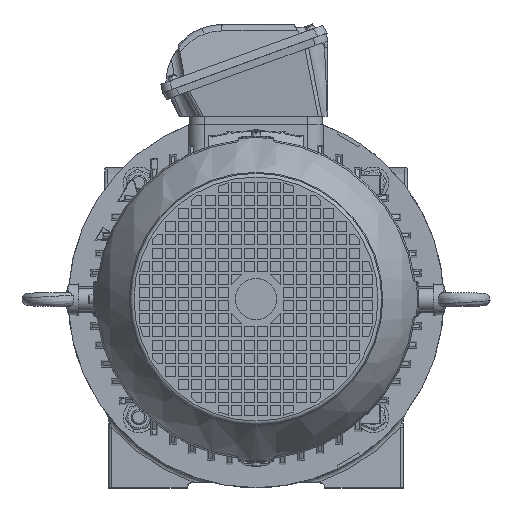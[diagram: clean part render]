
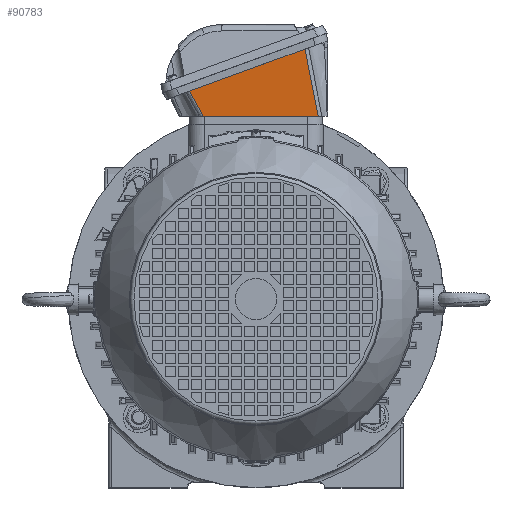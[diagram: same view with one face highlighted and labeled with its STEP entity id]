
A CAD part, top view. The second image highlights one B-rep face of the part: STEP entity #90783.
In plain terms, the highlighted planar face has unit normal (0.036, -0.098, 0.995).
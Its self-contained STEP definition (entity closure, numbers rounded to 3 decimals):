
#3135=B_SPLINE_CURVE_WITH_KNOTS('',3,(#155182,#155183,#155184,#155185),
 .UNSPECIFIED.,.F.,.F.,(4,4),(0.,0.023),.UNSPECIFIED.);
#3136=B_SPLINE_CURVE_WITH_KNOTS('',3,(#155186,#155187,#155188,#155189,#155190,
#155191,#155192,#155193,#155194,#155195,#155196,#155197,#155198),
 .UNSPECIFIED.,.F.,.F.,(4,3,3,3,4),(0.,0.027,0.027,
0.05,0.055),.UNSPECIFIED.);
#13300=FACE_OUTER_BOUND('',#18748,.T.);
#18748=EDGE_LOOP('',(#72315,#72316,#72317,#72318));
#26120=LINE('',#155084,#33066);
#26124=LINE('',#155181,#33070);
#33066=VECTOR('',#112037,1000.);
#33070=VECTOR('',#112051,1000.);
#42636=VERTEX_POINT('',#155082);
#42637=VERTEX_POINT('',#155083);
#42652=VERTEX_POINT('',#155179);
#42653=VERTEX_POINT('',#155180);
#53139=EDGE_CURVE('',#42636,#42637,#26120,.T.);
#53155=EDGE_CURVE('',#42652,#42653,#26124,.T.);
#53156=EDGE_CURVE('',#42653,#42637,#3135,.T.);
#53157=EDGE_CURVE('',#42636,#42652,#3136,.T.);
#72315=ORIENTED_EDGE('',*,*,#53155,.T.);
#72316=ORIENTED_EDGE('',*,*,#53156,.T.);
#72317=ORIENTED_EDGE('',*,*,#53139,.F.);
#72318=ORIENTED_EDGE('',*,*,#53157,.T.);
#87325=PLANE('',#96824);
#90783=ADVANCED_FACE('',(#13300),#87325,.T.);
#96824=AXIS2_PLACEMENT_3D('',#155178,#112049,#112050);
#112037=DIRECTION('',(-0.999,0.,0.036));
#112049=DIRECTION('center_axis',(0.036,-0.098,
0.995));
#112050=DIRECTION('ref_axis',(0.,0.995,0.098));
#112051=DIRECTION('',(-0.94,-0.342,0.));
#155082=CARTESIAN_POINT('',(49.714,146.5,334.648));
#155083=CARTESIAN_POINT('',(-41.969,146.5,337.944));
#155084=CARTESIAN_POINT('',(52.77,146.5,334.539));
#155178=CARTESIAN_POINT('Origin',(53.,211.5,340.95));
#155179=CARTESIAN_POINT('',(39.196,200.091,340.319));
#155180=CARTESIAN_POINT('',(-53.103,166.497,340.319));
#155181=CARTESIAN_POINT('',(55.052,205.862,340.319));
#155182=CARTESIAN_POINT('Ctrl Pts',(-53.103,166.497,
340.319));
#155183=CARTESIAN_POINT('Ctrl Pts',(-49.364,159.847,
339.528));
#155184=CARTESIAN_POINT('Ctrl Pts',(-45.658,153.178,
338.736));
#155185=CARTESIAN_POINT('Ctrl Pts',(-41.969,146.5,337.944));
#155186=CARTESIAN_POINT('Ctrl Pts',(49.714,146.5,334.648));
#155187=CARTESIAN_POINT('Ctrl Pts',(47.933,155.339,335.585));
#155188=CARTESIAN_POINT('Ctrl Pts',(46.165,164.18,336.522));
#155189=CARTESIAN_POINT('Ctrl Pts',(44.422,173.026,337.459));
#155190=CARTESIAN_POINT('Ctrl Pts',(44.406,173.111,337.467));
#155191=CARTESIAN_POINT('Ctrl Pts',(44.389,173.195,337.476));
#155192=CARTESIAN_POINT('Ctrl Pts',(44.373,173.279,337.485));
#155193=CARTESIAN_POINT('Ctrl Pts',(42.919,180.657,338.266));
#155194=CARTESIAN_POINT('Ctrl Pts',(41.482,188.038,339.047));
#155195=CARTESIAN_POINT('Ctrl Pts',(40.078,195.426,339.827));
#155196=CARTESIAN_POINT('Ctrl Pts',(39.782,196.981,339.991));
#155197=CARTESIAN_POINT('Ctrl Pts',(39.488,198.535,340.155));
#155198=CARTESIAN_POINT('Ctrl Pts',(39.196,200.091,340.319));
